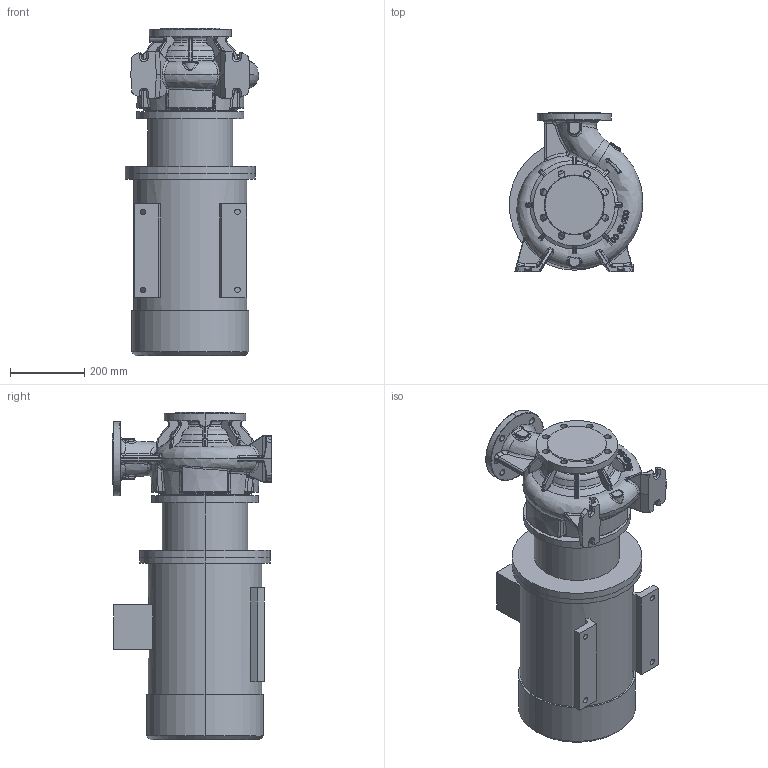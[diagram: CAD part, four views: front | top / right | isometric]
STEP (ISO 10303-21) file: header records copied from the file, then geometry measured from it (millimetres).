
FILE_DESCRIPTION (( 'STEP AP214' ), '1' );
FILE_NAME ('KRM 125-100-200-4-11.STEP', '2026-04-23T06:37:43', ( '' ), ( '' ), 'SwSTEP 2.0', 'SolidWorks 2016', '' );
FILE_SCHEMA (( 'AUTOMOTIVE_DESIGN' ));
Length unit declared in the file: millimetre
Products named in the file (1): KRM 125-100-200-4-11
Bounding box: 359.29 x 430 x 880.8 mm (x, y, z)
Volume: 62260697.1 mm3; surface area: 1897735.1 mm2
Topology: 14 solids, 14 shells, 1370 faces, 3283 edges, 1958 vertices
Faces by surface type: bspline 620, cylinder 304, plane 222, torus 119, cone 77, sphere 28
Entity records: 106708 total; most frequent: CARTESIAN_POINT 64391, ORIENTED_EDGE 6550, DIRECTION 4476, EDGE_CURVE 3275, VERTEX_POINT 1958, AXIS2_PLACEMENT_3D 1860, EDGE_LOOP 1441, UNCERTAINTY_MEASURE_WITH_UNIT 1386
